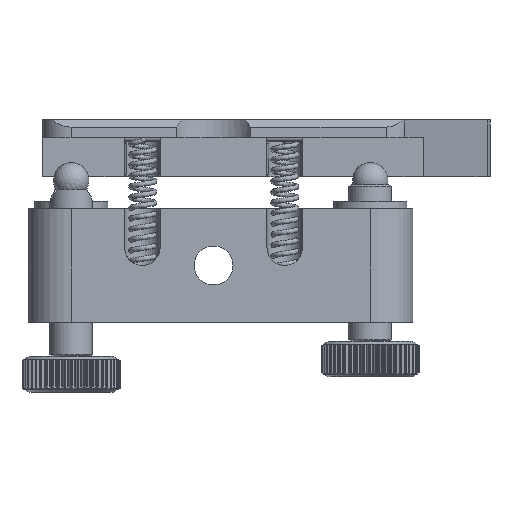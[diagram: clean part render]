
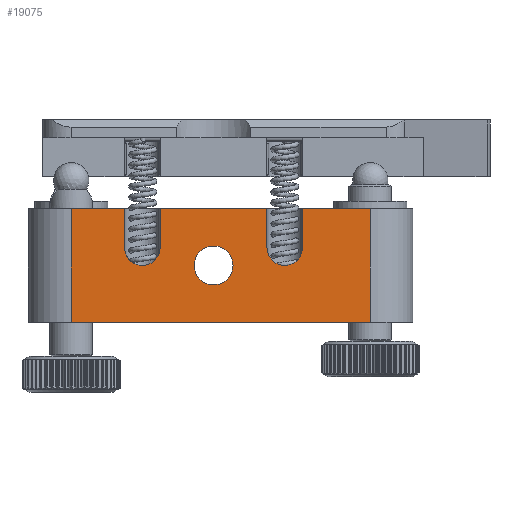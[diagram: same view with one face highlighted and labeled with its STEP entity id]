
A CAD part, left-side view. The second image highlights one B-rep face of the part: STEP entity #19075.
In plain terms, the highlighted planar face has unit normal (-1, 0, 0).
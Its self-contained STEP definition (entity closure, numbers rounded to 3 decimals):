
#8774=CARTESIAN_POINT('',(0.,-19.002,16.));
#8775=VERTEX_POINT('',#8774);
#8782=CARTESIAN_POINT('',(0.,-34.002,16.));
#8783=VERTEX_POINT('',#8782);
#8784=CARTESIAN_POINT('',(0.,-19.002,16.));
#8785=DIRECTION('',(0.0,-1.0,0.0));
#8786=VECTOR('',#8785,15.0);
#8787=LINE('',#8784,#8786);
#8788=EDGE_CURVE('',#8775,#8783,#8787,.T.);
#8848=CARTESIAN_POINT('',(0.,-6.502,16.));
#8849=VERTEX_POINT('',#8848);
#8857=CARTESIAN_POINT('',(0.,-14.002,16.));
#8858=VERTEX_POINT('',#8857);
#8859=CARTESIAN_POINT('',(0.,-6.502,16.));
#8860=DIRECTION('',(0.0,-1.0,0.0));
#8861=VECTOR('',#8860,7.5);
#8862=LINE('',#8859,#8861);
#8863=EDGE_CURVE('',#8849,#8858,#8862,.T.);
#18554=CARTESIAN_POINT('',(0.,-14.002,10.5));
#18555=VERTEX_POINT('',#18554);
#18564=CARTESIAN_POINT('',(0.,-14.002,16.));
#18565=DIRECTION('',(0.0,0.0,-1.0));
#18566=VECTOR('',#18565,5.5);
#18567=LINE('',#18564,#18566);
#18568=EDGE_CURVE('',#8858,#18555,#18567,.T.);
#18578=CARTESIAN_POINT('',(0.,-19.002,10.5));
#18579=VERTEX_POINT('',#18578);
#18580=CARTESIAN_POINT('',(0.,-16.502,10.5));
#18581=DIRECTION('',(1.0,0.,0.));
#18582=DIRECTION('',(0.,-0.707,-0.707));
#18583=AXIS2_PLACEMENT_3D('',#18580,#18581,#18582);
#18584=CIRCLE('',#18583,2.5);
#18585=EDGE_CURVE('',#18579,#18555,#18584,.T.);
#18603=CARTESIAN_POINT('',(0.,-34.002,10.5));
#18604=VERTEX_POINT('',#18603);
#18613=CARTESIAN_POINT('',(0.,-34.002,16.0));
#18614=DIRECTION('',(0.0,0.0,-1.0));
#18615=VECTOR('',#18614,5.5);
#18616=LINE('',#18613,#18615);
#18617=EDGE_CURVE('',#8783,#18604,#18616,.T.);
#18627=CARTESIAN_POINT('',(0.,-39.002,10.5));
#18628=VERTEX_POINT('',#18627);
#18629=CARTESIAN_POINT('',(0.,-36.502,10.5));
#18630=DIRECTION('',(1.0,0.,0.));
#18631=DIRECTION('',(0.,-0.707,-0.707));
#18632=AXIS2_PLACEMENT_3D('',#18629,#18630,#18631);
#18633=CIRCLE('',#18632,2.5);
#18634=EDGE_CURVE('',#18628,#18604,#18633,.T.);
#18653=CARTESIAN_POINT('',(0.,-39.002,16.));
#18654=VERTEX_POINT('',#18653);
#18655=CARTESIAN_POINT('',(0.,-39.002,10.5));
#18656=DIRECTION('',(0.0,0.0,1.0));
#18657=VECTOR('',#18656,5.5);
#18658=LINE('',#18655,#18657);
#18659=EDGE_CURVE('',#18628,#18654,#18658,.T.);
#18677=CARTESIAN_POINT('',(0.,-19.002,10.5));
#18678=DIRECTION('',(0.0,0.0,1.0));
#18679=VECTOR('',#18678,5.5);
#18680=LINE('',#18677,#18679);
#18681=EDGE_CURVE('',#18579,#8775,#18680,.T.);
#18987=CARTESIAN_POINT('',(0.,-26.502,10.73));
#18988=VERTEX_POINT('',#18987);
#18989=CARTESIAN_POINT('',(0.,-26.502,8.));
#18990=DIRECTION('',(-1.0,0.0,0.0));
#18991=DIRECTION('',(0.0,0.0,1.0));
#18992=AXIS2_PLACEMENT_3D('',#18989,#18990,#18991);
#18993=CIRCLE('',#18992,2.73);
#18994=EDGE_CURVE('',#18988,#18988,#18993,.T.);
#19016=CARTESIAN_POINT('',(0.,-6.502,0.));
#19017=VERTEX_POINT('',#19016);
#19025=CARTESIAN_POINT('',(0.,-6.502,16.));
#19026=DIRECTION('',(0.0,0.0,-1.0));
#19027=VECTOR('',#19026,16.);
#19028=LINE('',#19025,#19027);
#19029=EDGE_CURVE('',#8849,#19017,#19028,.T.);
#19034=CARTESIAN_POINT('',(0.,-0.502,0.));
#19035=DIRECTION('',(1.0,0.0,0.0));
#19036=DIRECTION('',(0.0,0.0,1.0));
#19037=AXIS2_PLACEMENT_3D('',#19034,#19035,#19036);
#19038=PLANE('',#19037);
#19039=ORIENTED_EDGE('',*,*,#18659,.F.);
#19040=ORIENTED_EDGE('',*,*,#18634,.T.);
#19041=ORIENTED_EDGE('',*,*,#18617,.F.);
#19042=ORIENTED_EDGE('',*,*,#8788,.F.);
#19043=ORIENTED_EDGE('',*,*,#18681,.F.);
#19044=ORIENTED_EDGE('',*,*,#18585,.T.);
#19045=ORIENTED_EDGE('',*,*,#18568,.F.);
#19046=ORIENTED_EDGE('',*,*,#8863,.F.);
#19047=ORIENTED_EDGE('',*,*,#19029,.T.);
#19048=CARTESIAN_POINT('',(0.,-48.502,0.0));
#19049=VERTEX_POINT('',#19048);
#19050=CARTESIAN_POINT('',(0.,-48.502,0.));
#19051=DIRECTION('',(0.0,1.0,0.0));
#19052=VECTOR('',#19051,42.);
#19053=LINE('',#19050,#19052);
#19054=EDGE_CURVE('',#19049,#19017,#19053,.T.);
#19055=ORIENTED_EDGE('',*,*,#19054,.F.);
#19056=CARTESIAN_POINT('',(0.,-48.502,16.));
#19057=VERTEX_POINT('',#19056);
#19058=CARTESIAN_POINT('',(0.,-48.502,0.0));
#19059=DIRECTION('',(0.0,0.0,1.0));
#19060=VECTOR('',#19059,16.0);
#19061=LINE('',#19058,#19060);
#19062=EDGE_CURVE('',#19049,#19057,#19061,.T.);
#19063=ORIENTED_EDGE('',*,*,#19062,.T.);
#19064=CARTESIAN_POINT('',(0.,-39.002,16.));
#19065=DIRECTION('',(0.0,-1.0,0.0));
#19066=VECTOR('',#19065,9.5);
#19067=LINE('',#19064,#19066);
#19068=EDGE_CURVE('',#18654,#19057,#19067,.T.);
#19069=ORIENTED_EDGE('',*,*,#19068,.F.);
#19070=EDGE_LOOP('',(#19039,#19040,#19041,#19042,#19043,#19044,#19045,#19046,#19047,#19055,#19063,#19069));
#19071=FACE_OUTER_BOUND('',#19070,.T.);
#19072=ORIENTED_EDGE('',*,*,#18994,.F.);
#19073=EDGE_LOOP('',(#19072));
#19074=FACE_BOUND('',#19073,.T.);
#19075=ADVANCED_FACE('',(#19071,#19074),#19038,.F.);
